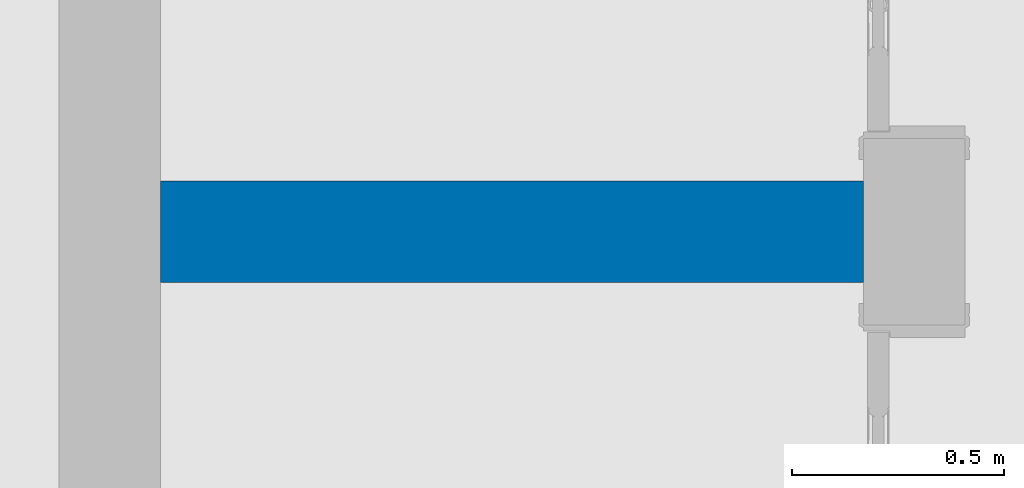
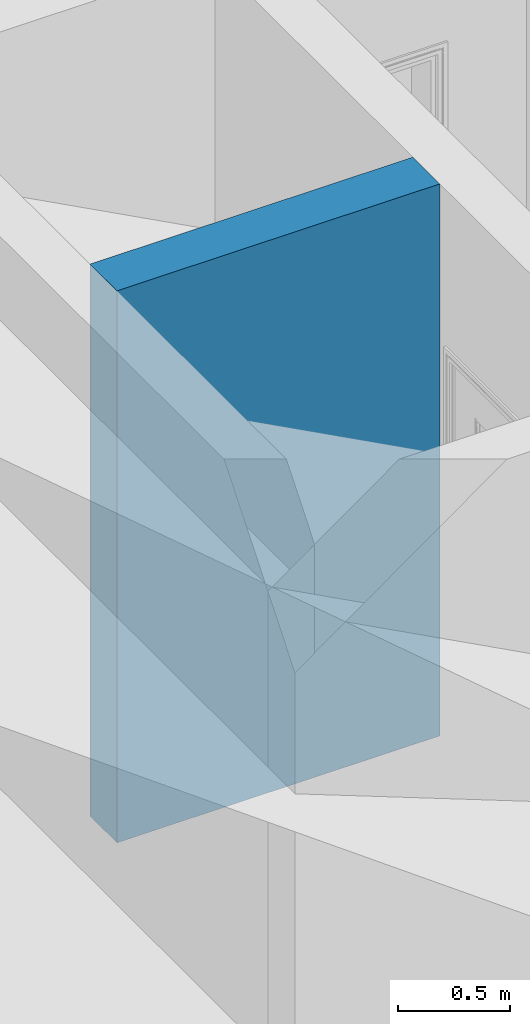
# One storey, part 62 of 82: 1 wall.
"""IFC2X3 building model written with IfcOpenShell, lengths in millimetres."""

from ifc_helpers import new_model, entity, si_unit, converted_unit, derived_unit, direction, frame, frame_2d, origin, place, context, subcontext, project, spatial, rectangle, extrude, material, layer, layer_set, layer_usage, type_object, element, save


model = new_model("IFC2X3")

# Units and contexts
model_context = context("Model", 3, precision=0.01, world=origin(), true_north=direction((6.12303176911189e-17, 1.0)))
body_context = subcontext(model_context, "Body", "Model", "MODEL_VIEW")
ifc_project = project(units=[si_unit("LENGTHUNIT", "METRE", prefix="MILLI"), si_unit("AREAUNIT", "SQUARE_METRE"), si_unit("VOLUMEUNIT", "CUBIC_METRE"), converted_unit("PLANEANGLEUNIT", "DEGREE", entity("IfcRatioMeasure", 0.0174532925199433), si_unit("PLANEANGLEUNIT", "RADIAN"), dimensions=[0, 0, 0, 0, 0, 0, 0]), si_unit("MASSUNIT", "GRAM", prefix="KILO"), derived_unit("MASSDENSITYUNIT", [(si_unit("MASSUNIT", "GRAM", prefix="KILO"), 1), (si_unit("LENGTHUNIT", "METRE"), -3)]), si_unit("TIMEUNIT", "SECOND"), si_unit("FREQUENCYUNIT", "HERTZ"), si_unit("THERMODYNAMICTEMPERATUREUNIT", "DEGREE_CELSIUS"), derived_unit("THERMALTRANSMITTANCEUNIT", [(si_unit("MASSUNIT", "GRAM", prefix="KILO"), 1), (si_unit("THERMODYNAMICTEMPERATUREUNIT", "KELVIN"), -1), (si_unit("TIMEUNIT", "SECOND"), -3)]), derived_unit("VOLUMETRICFLOWRATEUNIT", [(si_unit("LENGTHUNIT", "METRE"), 3), (si_unit("TIMEUNIT", "SECOND"), -1)]), si_unit("ELECTRICCURRENTUNIT", "AMPERE"), si_unit("ELECTRICVOLTAGEUNIT", "VOLT"), si_unit("POWERUNIT", "WATT"), si_unit("FORCEUNIT", "NEWTON", prefix="KILO"), si_unit("ILLUMINANCEUNIT", "LUX"), si_unit("LUMINOUSFLUXUNIT", "LUMEN"), si_unit("LUMINOUSINTENSITYUNIT", "CANDELA"), derived_unit("USERDEFINED", [(si_unit("MASSUNIT", "GRAM", prefix="KILO"), -1), (si_unit("LENGTHUNIT", "METRE"), -2), (si_unit("TIMEUNIT", "SECOND"), 3), (si_unit("LUMINOUSFLUXUNIT", "LUMEN"), 1)]), derived_unit("LINEARVELOCITYUNIT", [(si_unit("LENGTHUNIT", "METRE"), 1), (si_unit("TIMEUNIT", "SECOND"), -1)]), si_unit("PRESSUREUNIT", "PASCAL"), derived_unit("USERDEFINED", [(si_unit("LENGTHUNIT", "METRE"), -2), (si_unit("MASSUNIT", "GRAM", prefix="KILO"), 1), (si_unit("TIMEUNIT", "SECOND"), -2)])], contexts=[model_context])

# Site, building, storey
site_placement = place(None, origin())
site = spatial("IfcSite", under=ifc_project, at=site_placement, Name="表面", CompositionType="ELEMENT")
building_placement = place(site_placement, origin())
building = spatial("IfcBuilding", under=site, at=building_placement, CompositionType="ELEMENT")
storey_placement = place(building_placement, origin())
storey = spatial("IfcBuildingStorey", under=building, at=storey_placement, Name="1F", CompositionType="ELEMENT", Elevation=0.0)

# Wall
ifc_material_1 = material(Name="白色涂料")
ifc_layer_1 = layer(ifc_material_1, 10.0)
ifc_material_2 = material(Name="默认墙")
ifc_layer_2 = layer(ifc_material_2, 220.0)
ifc_layer_3 = layer(ifc_material_1, 10.0)
ifc_layer_set = layer_set([ifc_layer_1, ifc_layer_2, ifc_layer_3], Name="基本墙:粉刷墙240")
ifc_layer_usage = layer_usage(ifc_layer_set, "AXIS2", "NEGATIVE", 120.0)
wall_type = type_object("IfcWallType", Name="基本墙:粉刷墙240", PredefinedType="STANDARD", material=ifc_layer_set)
wall_placement = place(storey_placement, frame((-11910.2499126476, -316.868426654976, 0.0)))
element("IfcWallStandardCase", 1, at=wall_placement, inside=storey, type_object=wall_type, material=ifc_layer_usage, Name="基本墙:粉刷墙240", ObjectType="基本墙:粉刷墙240", context=body_context, shape_type="SweptSolid", body=[
    extrude(rectangle(XDim=1660.0, YDim=240.0, at=frame_2d((830.000000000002, 1.4210854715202e-14), x_axis=(-1.0, 0.0))), origin(), (0.0, 0.0, 1.0), 3000.00000000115),
])

save(model, "model.ifc")
